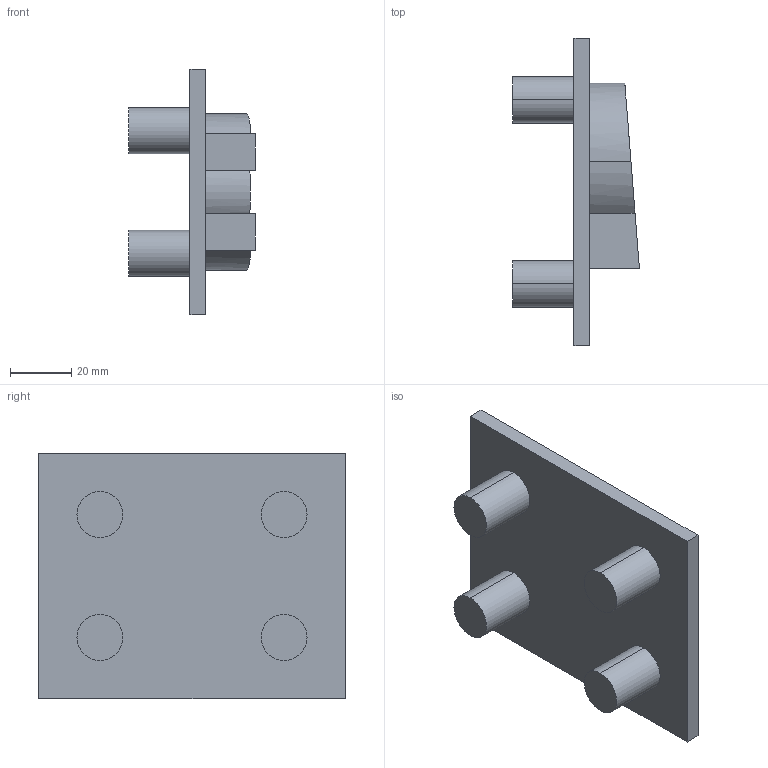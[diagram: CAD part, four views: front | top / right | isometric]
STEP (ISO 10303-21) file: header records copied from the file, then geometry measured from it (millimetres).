
FILE_DESCRIPTION(('STEP AP214'),'1');
FILE_NAME('C:/Users/mashimo/Documents/次世代エンジン/ボア６ｃｍ/TurboCAD/3D/tmp0.STEP','2025-07-11T09:14:19',(' '),(' '),'Spatial InterOp 3D',' ',' ');
FILE_SCHEMA(('automotive_design'));
Length unit declared in the file: millimetre
Products named in the file (1): 1
Bounding box: 41.32 x 100 x 80 mm (x, y, z)
Volume: 76957.3 mm3; surface area: 28206.1 mm2
Topology: 1 solids, 1 shells, 40 faces, 93 edges, 63 vertices
Faces by surface type: cylinder 20, plane 20
Entity records: 1508 total; most frequent: DIRECTION 218, CARTESIAN_POINT 197, ORIENTED_EDGE 186, EDGE_CURVE 93, AXIS2_PLACEMENT_3D 84, VERTEX_POINT 63, LINE 50, VECTOR 50
